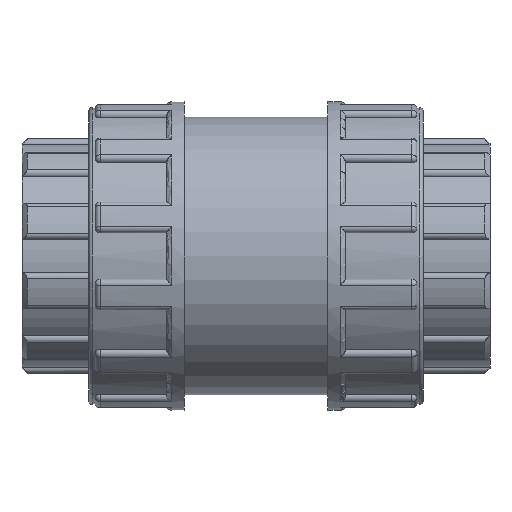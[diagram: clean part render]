
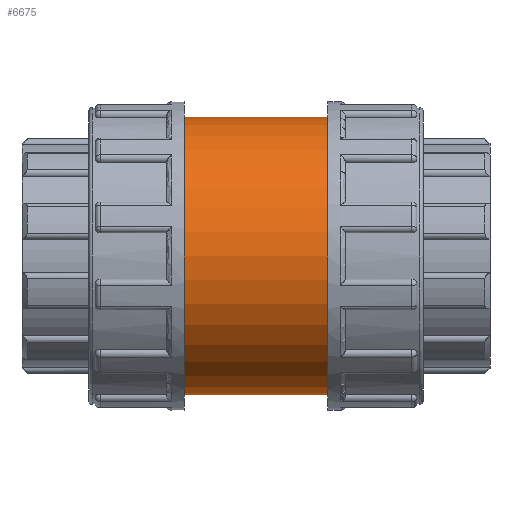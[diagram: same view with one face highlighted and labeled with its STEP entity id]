
A CAD part, front view. The second image highlights one B-rep face of the part: STEP entity #6675.
In plain terms, the highlighted cylindrical face has radius 74.25 mm (diameter 148.5 mm), a full revolution.
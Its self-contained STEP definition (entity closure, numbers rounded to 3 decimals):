
#185=FACE_BOUND('',#1099,.T.);
#186=FACE_BOUND('',#1100,.T.);
#670=FACE_OUTER_BOUND('',#1098,.T.);
#1098=EDGE_LOOP('',(#6073));
#1099=EDGE_LOOP('',(#6074));
#1100=EDGE_LOOP('',(#6075));
#1149=B_SPLINE_CURVE_WITH_KNOTS('',3,(#10735,#10736,#10737,#10738,#10739,
#10740,#10741,#10742,#10743,#10744,#10745,#10746,#10747,#10748,#10749,#10750,
#10751,#10752,#10753,#10754,#10755,#10756,#10757,#10758,#10759,#10760,#10761,
#10762,#10763,#10764,#10765,#10766,#10767,#10768,#10769,#10770,#10771,#10772,
#10773,#10774,#10775,#10776,#10777,#10778,#10779,#10780,#10781,#10782,#10783,
#10784,#10785,#10786,#10787,#10788,#10789,#10790,#10791,#10792,#10793,#10794,
#10795,#10796,#10797,#10798,#10799,#10800),.UNSPECIFIED.,.T.,.F.,(4,2,2,
2,2,2,2,2,2,2,2,2,2,2,2,2,2,2,2,2,2,2,2,2,2,2,2,2,2,2,2,2,4),(0.,0.47,
0.94,1.411,1.881,2.351,2.821,
3.291,3.761,4.23,4.7,5.17,
5.64,6.111,6.581,7.051,7.521,
7.991,8.461,8.932,9.402,9.872,
10.342,10.812,11.282,11.752,12.221,
12.691,13.161,13.632,14.102,14.572,
15.042),.UNSPECIFIED.);
#2472=CIRCLE('',#7578,74.25);
#2473=CIRCLE('',#7580,74.25);
#2638=VERTEX_POINT('',#10734);
#3083=VERTEX_POINT('',#13385);
#3084=VERTEX_POINT('',#13388);
#3349=EDGE_CURVE('',#2638,#2638,#1149,.T.);
#4082=EDGE_CURVE('',#3083,#3083,#2472,.T.);
#4083=EDGE_CURVE('',#3084,#3084,#2473,.T.);
#6073=ORIENTED_EDGE('',*,*,#4082,.T.);
#6074=ORIENTED_EDGE('',*,*,#3349,.T.);
#6075=ORIENTED_EDGE('',*,*,#4083,.F.);
#6267=CYLINDRICAL_SURFACE('',#7579,74.25);
#6675=ADVANCED_FACE('',(#670,#185,#186),#6267,.T.);
#7578=AXIS2_PLACEMENT_3D('',#13386,#9749,#9750);
#7579=AXIS2_PLACEMENT_3D('',#13387,#9751,#9752);
#7580=AXIS2_PLACEMENT_3D('',#13389,#9753,#9754);
#9749=DIRECTION('center_axis',(1.,0.,0.));
#9750=DIRECTION('ref_axis',(0.,0.,-1.));
#9751=DIRECTION('center_axis',(1.,0.,0.));
#9752=DIRECTION('ref_axis',(0.,1.,0.));
#9753=DIRECTION('center_axis',(1.,0.,0.));
#9754=DIRECTION('ref_axis',(0.,0.,-1.));
#10734=CARTESIAN_POINT('',(0.,70.004,-24.75));
#10735=CARTESIAN_POINT('Ctrl Pts',(0.,70.004,-24.75));
#10736=CARTESIAN_POINT('Ctrl Pts',(1.567,70.004,-24.75));
#10737=CARTESIAN_POINT('Ctrl Pts',(3.184,70.058,-24.599));
#10738=CARTESIAN_POINT('Ctrl Pts',(6.391,70.277,-23.966));
#10739=CARTESIAN_POINT('Ctrl Pts',(7.982,70.441,-23.485));
#10740=CARTESIAN_POINT('Ctrl Pts',(11.027,70.851,-22.219));
#10741=CARTESIAN_POINT('Ctrl Pts',(12.484,71.096,-21.433));
#10742=CARTESIAN_POINT('Ctrl Pts',(15.174,71.617,-19.62));
#10743=CARTESIAN_POINT('Ctrl Pts',(16.409,71.893,-18.593));
#10744=CARTESIAN_POINT('Ctrl Pts',(18.593,72.423,-16.409));
#10745=CARTESIAN_POINT('Ctrl Pts',(19.619,72.696,-15.175));
#10746=CARTESIAN_POINT('Ctrl Pts',(21.432,73.206,-12.484));
#10747=CARTESIAN_POINT('Ctrl Pts',(22.219,73.443,-11.027));
#10748=CARTESIAN_POINT('Ctrl Pts',(23.486,73.836,-7.982));
#10749=CARTESIAN_POINT('Ctrl Pts',(23.967,73.992,-6.39));
#10750=CARTESIAN_POINT('Ctrl Pts',(24.599,74.199,-3.183));
#10751=CARTESIAN_POINT('Ctrl Pts',(24.75,74.25,-1.567));
#10752=CARTESIAN_POINT('Ctrl Pts',(24.75,74.25,1.567));
#10753=CARTESIAN_POINT('Ctrl Pts',(24.599,74.199,3.183));
#10754=CARTESIAN_POINT('Ctrl Pts',(23.967,73.992,6.39));
#10755=CARTESIAN_POINT('Ctrl Pts',(23.486,73.836,7.982));
#10756=CARTESIAN_POINT('Ctrl Pts',(22.219,73.443,11.027));
#10757=CARTESIAN_POINT('Ctrl Pts',(21.432,73.206,12.484));
#10758=CARTESIAN_POINT('Ctrl Pts',(19.619,72.696,15.175));
#10759=CARTESIAN_POINT('Ctrl Pts',(18.593,72.423,16.409));
#10760=CARTESIAN_POINT('Ctrl Pts',(16.409,71.893,18.593));
#10761=CARTESIAN_POINT('Ctrl Pts',(15.174,71.617,19.62));
#10762=CARTESIAN_POINT('Ctrl Pts',(12.484,71.096,21.433));
#10763=CARTESIAN_POINT('Ctrl Pts',(11.027,70.851,22.219));
#10764=CARTESIAN_POINT('Ctrl Pts',(7.982,70.441,23.485));
#10765=CARTESIAN_POINT('Ctrl Pts',(6.391,70.277,23.966));
#10766=CARTESIAN_POINT('Ctrl Pts',(3.184,70.058,24.599));
#10767=CARTESIAN_POINT('Ctrl Pts',(1.567,70.004,24.75));
#10768=CARTESIAN_POINT('Ctrl Pts',(-1.567,70.004,24.75));
#10769=CARTESIAN_POINT('Ctrl Pts',(-3.184,70.058,24.599));
#10770=CARTESIAN_POINT('Ctrl Pts',(-6.391,70.277,23.966));
#10771=CARTESIAN_POINT('Ctrl Pts',(-7.982,70.441,23.485));
#10772=CARTESIAN_POINT('Ctrl Pts',(-11.027,70.851,22.219));
#10773=CARTESIAN_POINT('Ctrl Pts',(-12.484,71.096,21.433));
#10774=CARTESIAN_POINT('Ctrl Pts',(-15.174,71.617,19.62));
#10775=CARTESIAN_POINT('Ctrl Pts',(-16.409,71.893,18.593));
#10776=CARTESIAN_POINT('Ctrl Pts',(-18.593,72.423,16.409));
#10777=CARTESIAN_POINT('Ctrl Pts',(-19.619,72.696,15.175));
#10778=CARTESIAN_POINT('Ctrl Pts',(-21.432,73.206,12.484));
#10779=CARTESIAN_POINT('Ctrl Pts',(-22.219,73.443,11.027));
#10780=CARTESIAN_POINT('Ctrl Pts',(-23.486,73.836,7.982));
#10781=CARTESIAN_POINT('Ctrl Pts',(-23.967,73.992,6.39));
#10782=CARTESIAN_POINT('Ctrl Pts',(-24.599,74.199,3.183));
#10783=CARTESIAN_POINT('Ctrl Pts',(-24.75,74.25,1.567));
#10784=CARTESIAN_POINT('Ctrl Pts',(-24.75,74.25,-1.567));
#10785=CARTESIAN_POINT('Ctrl Pts',(-24.599,74.199,-3.183));
#10786=CARTESIAN_POINT('Ctrl Pts',(-23.967,73.992,-6.39));
#10787=CARTESIAN_POINT('Ctrl Pts',(-23.486,73.836,-7.982));
#10788=CARTESIAN_POINT('Ctrl Pts',(-22.219,73.443,-11.027));
#10789=CARTESIAN_POINT('Ctrl Pts',(-21.432,73.206,-12.484));
#10790=CARTESIAN_POINT('Ctrl Pts',(-19.619,72.696,-15.175));
#10791=CARTESIAN_POINT('Ctrl Pts',(-18.593,72.423,-16.409));
#10792=CARTESIAN_POINT('Ctrl Pts',(-16.409,71.893,-18.593));
#10793=CARTESIAN_POINT('Ctrl Pts',(-15.174,71.617,-19.62));
#10794=CARTESIAN_POINT('Ctrl Pts',(-12.484,71.096,-21.433));
#10795=CARTESIAN_POINT('Ctrl Pts',(-11.027,70.851,-22.219));
#10796=CARTESIAN_POINT('Ctrl Pts',(-7.982,70.441,-23.485));
#10797=CARTESIAN_POINT('Ctrl Pts',(-6.391,70.277,-23.966));
#10798=CARTESIAN_POINT('Ctrl Pts',(-3.184,70.058,-24.599));
#10799=CARTESIAN_POINT('Ctrl Pts',(-1.567,70.004,-24.75));
#10800=CARTESIAN_POINT('Ctrl Pts',(0.,70.004,
-24.75));
#13385=CARTESIAN_POINT('',(-38.3,74.25,0.));
#13386=CARTESIAN_POINT('Origin',(-38.3,0.,0.));
#13387=CARTESIAN_POINT('Origin',(0.,0.,0.));
#13388=CARTESIAN_POINT('',(38.3,74.25,0.));
#13389=CARTESIAN_POINT('Origin',(38.3,0.,0.));
